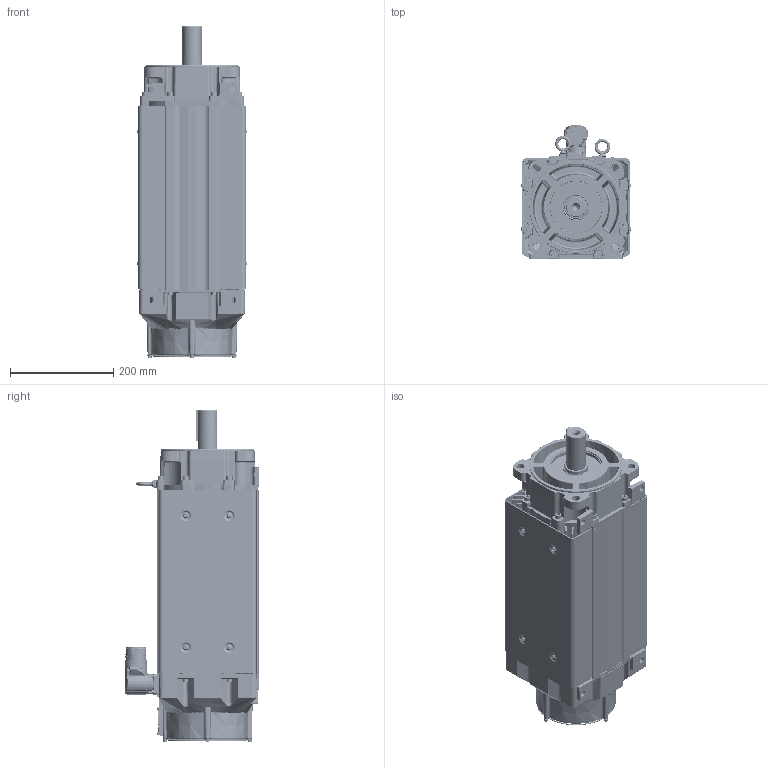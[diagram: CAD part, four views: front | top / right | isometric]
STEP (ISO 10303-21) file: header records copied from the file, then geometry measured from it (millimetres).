
FILE_DESCRIPTION((''),'2;1');
FILE_NAME('VPC-B2154D-QJ14FX_ASM','2016-09-27T',('SRGaddam'),('Rockwell Automation'),'PRO/ENGINEER BY PARAMETRIC TECHNOLOGY CORPORATION, 2012480','PRO/ENGINEER BY PARAMETRIC TECHNOLOGY CORPORATION, 2012480','');
FILE_SCHEMA(('CONFIG_CONTROL_DESIGN'));
Products named in the file (42): 10001238886_AF0; 10001298482_AF22; 10001284445_ASM; CH31X150; 10001371613; 10000569218; 10001416323; 10001587021; 10001257630_AF285; 10001300098_AF257; 10001314835_ASM; 10001289764; 10002069468; 10001935397; 10001713570; 10001713572_ASM; 91290A150BR; 10001289776; CH4X050; 10001587458; 91290A115; 10001336508; 10001409703; 10001299929; 10001284567; 10001518963; 91290A148BR; 10001587431; 91290A139BR; 10000231113; 10001289808_ASM; 10001609981; 0002-5005; 10001586886; 10001369859; 0011-2066; 142408_740; PRT0002_740; 142408-1_740_ASM; 221404-Q12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
Assembly tree (80 placements, depth 4):
  VPC-B2154D-QJ14FX_ASM
    10001284445_ASM
      10001238886_AF0
      10001298482_AF22
    CH31X150  x8
    10001371613
    10000569218
    10001416323  x2
    10001587021  x8
    10001314835_ASM
      10001257630_AF285
      10001300098_AF257
    10001289808_ASM
      10001289764
      10002069468
      10001713572_ASM
        10001935397
        10001713570
      91290A150BR  x4
      10001289776
      CH4X050  x2
      10001587458
      91290A115  x5
      10001336508
      10001409703
      10001299929
      10001284567
      10001518963
      91290A148BR  x8
      10001587431
      91290A139BR
      10000231113
    10001609981
    0002-5005  x2
    10001586886  x6
    10001369859
    0011-2066
    M740_ASM
      142408-1_740_ASM
        142408_740
        PRT0002_740
      221404-Q12  x4
Bounding box: 210.91 x 260.15 x 641.61 mm (x, y, z)
Volume: 6187726.4 mm3; surface area: 1971781.7 mm2
Topology: 83 solids, 83 shells, 6604 faces, 15786 edges, 9618 vertices
Faces by surface type: plane 1975, cylinder 1766, bspline 1266, cone 831, torus 596, sphere 135, revolution 30, extrusion 5
Entity records: 231820 total; most frequent: CARTESIAN_POINT 109234, ORIENTED_EDGE 26644, DIRECTION 23686, EDGE_CURVE 13322, AXIS2_PLACEMENT_3D 9310, VERTEX_POINT 8202, EDGE_LOOP 6002, FACE_OUTER_BOUND 5512
